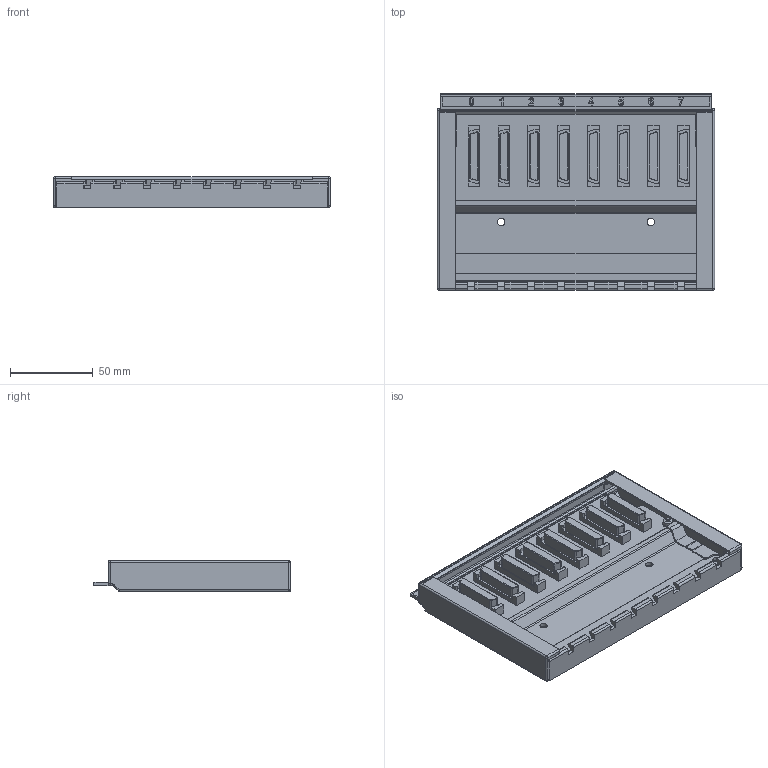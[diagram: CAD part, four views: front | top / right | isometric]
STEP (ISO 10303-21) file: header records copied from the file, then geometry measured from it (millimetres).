
FILE_DESCRIPTION (( 'STEP AP214' ), '1' );
FILE_NAME ('NX9000_20150629,.STEP', '2015-06-29T17:06:03', ( 'ALTUS' ), ( '' ), 'SwSTEP 2.0', 'SolidWorks 2011', '' );
FILE_SCHEMA (( 'AUTOMOTIVE_DESIGN' ));
Length unit declared in the file: millimetre
Products named in the file (1): NX9000_20150629,
Bounding box: 167.7 x 119.08 x 18.68 mm (x, y, z)
Volume: 96565.4 mm3; surface area: 90317.1 mm2
Topology: 1 solids, 3 shells, 1080 faces, 3005 edges, 1944 vertices
Faces by surface type: plane 525, cylinder 296, bspline 173, cone 46, torus 34, sphere 6
Entity records: 48679 total; most frequent: CARTESIAN_POINT 10351, ORIENTED_EDGE 5990, DIRECTION 4867, EDGE_CURVE 2995, VERTEX_POINT 1942, LINE 1747, VECTOR 1747, AXIS2_PLACEMENT_3D 1560
